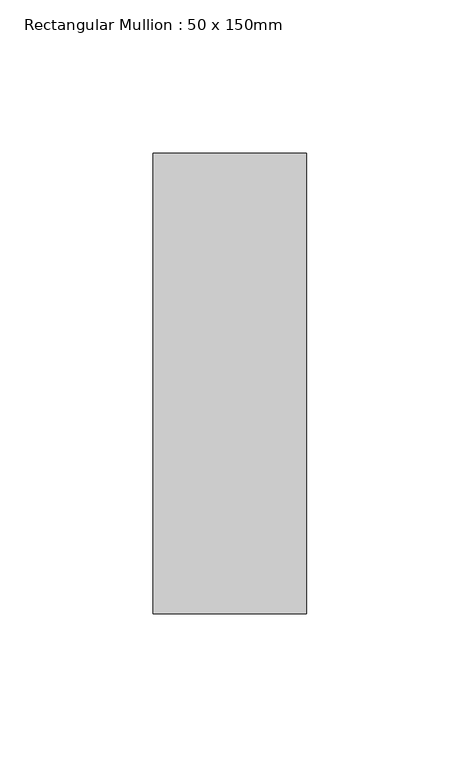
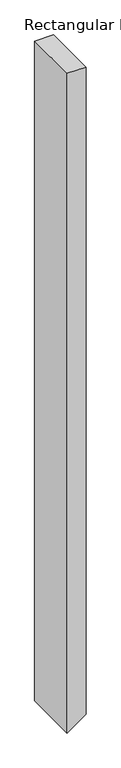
"""IFC4 building model written with IfcOpenShell, lengths in millimetres: member geometry, Rectangular Mullion : 50 x 150mm."""

from ifc_helpers import new_model, si_unit, frame, origin, place, context, project, spatial, polyline, outline, extrude, source, transform, mapped, element, save


def rectangular_mullion_50_x_150mm_ba6c1768(model_context):
    return source(origin(), model_context, "Body", "SweptSolid", [
        extrude(outline(polyline([(0.0, 25.0), (0.0, -25.0), (-1857.2932553, -25.0), (-1821.1872047, 25.0), (0.0, 25.0)])), frame((0.0, -75.0, 0.0), z_axis=(0.0, 1.0, 0.0), x_axis=(0.0, 0.0, 1.0)), (0.0, 0.0, 1.0), 150.0),
    ])


if __name__ == "__main__":
    model = new_model("IFC4")
    model_context = context("Model", 3, world=origin())
    ifc_project = project(units=[si_unit("LENGTHUNIT", "METRE", prefix="MILLI")], contexts=[model_context])
    site = spatial("IfcSite", under=ifc_project)
    building = spatial("IfcBuilding", under=site)
    placement = place(None, origin())
    rectangular_mullion_50_x_150mm_shape = rectangular_mullion_50_x_150mm_ba6c1768(model_context)
    element("IfcMember", 1, ObjectType="Rectangular Mullion : 50 x 150mm", at=placement, inside=building, context=model_context, shape_type="MappedRepresentation", body=[
        mapped(rectangular_mullion_50_x_150mm_shape, transform((0.0, 0.0, 0.0), x_axis=(1.0, 0.0, 0.0), y_axis=(0.0, 1.0, 0.0), z_axis=(0.0, 0.0, 1.0))),
    ])
    save(model, "model.ifc")
